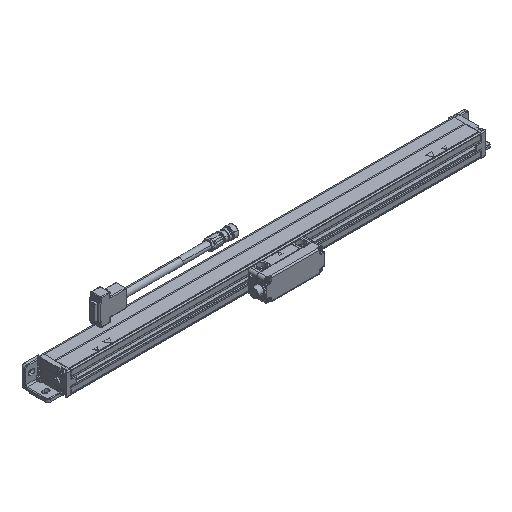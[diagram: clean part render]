
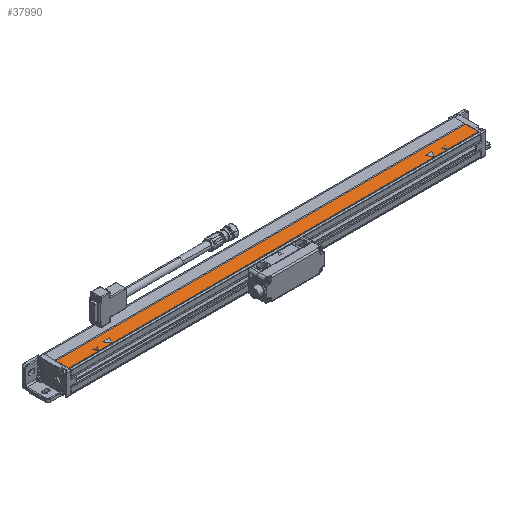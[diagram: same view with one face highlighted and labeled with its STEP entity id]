
A CAD part, isometric view. The second image highlights one B-rep face of the part: STEP entity #37990.
In plain terms, the highlighted planar face has unit normal (0, 0, 1).
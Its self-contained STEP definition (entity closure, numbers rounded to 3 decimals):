
#4180=CARTESIAN_POINT('',(2046.,62.01,34.29));
#4190=VERTEX_POINT('',#4180);
#4240=CARTESIAN_POINT('',(2144.,62.01,34.29));
#4250=DIRECTION('',(1.,0.,0.));
#4260=VECTOR('',#4250,1.);
#4270=LINE('',#4240,#4260);
#4280=CARTESIAN_POINT('',(2682.,62.01,34.29));
#4290=VERTEX_POINT('',#4280);
#4300=EDGE_CURVE('',#4190,#4290,#4270,.T.);
#35670=CARTESIAN_POINT('',(2682.,82.01,34.29));
#35680=VERTEX_POINT('',#35670);
#35730=CARTESIAN_POINT('',(2144.,82.01,34.29));
#35740=DIRECTION('',(1.,0.,0.));
#35750=VECTOR('',#35740,1.);
#35760=LINE('',#35730,#35750);
#35770=CARTESIAN_POINT('',(2046.,82.01,34.29));
#35780=VERTEX_POINT('',#35770);
#35790=EDGE_CURVE('',#35780,#35680,#35760,.T.);
#36260=CARTESIAN_POINT('',(2144.,62.01,34.29));
#36270=DIRECTION('',(-0.,0.,1.));
#36280=DIRECTION('',(0.,-1.,0.));
#36290=AXIS2_PLACEMENT_3D('',#36260,#36270,#36280);
#36300=PLANE('',#36290);
#36310=CARTESIAN_POINT('',(2097.465,90.75,34.29));
#36320=DIRECTION('',(0.5,-0.866,0.));
#36330=VECTOR('',#36320,1.);
#36340=LINE('',#36310,#36330);
#36350=CARTESIAN_POINT('',(2108.804,71.11,34.29));
#36360=VERTEX_POINT('',#36350);
#36370=CARTESIAN_POINT('',(2114.,62.11,34.29));
#36380=VERTEX_POINT('',#36370);
#36390=EDGE_CURVE('',#36360,#36380,#36340,.T.);
#36400=ORIENTED_EDGE('',*,*,#36390,.F.);
#36410=CARTESIAN_POINT('',(2130.535,90.75,34.29));
#36420=DIRECTION('',(0.5,0.866,0.));
#36430=VECTOR('',#36420,1.);
#36440=LINE('',#36410,#36430);
#36450=CARTESIAN_POINT('',(2119.196,71.11,34.29));
#36460=VERTEX_POINT('',#36450);
#36470=EDGE_CURVE('',#36380,#36460,#36440,.T.);
#36480=ORIENTED_EDGE('',*,*,#36470,.F.);
#36490=CARTESIAN_POINT('',(2652.,71.11,34.29));
#36500=DIRECTION('',(-1.,0.,0.));
#36510=VECTOR('',#36500,1.);
#36520=LINE('',#36490,#36510);
#36530=EDGE_CURVE('',#36460,#36360,#36520,.T.);
#36540=ORIENTED_EDGE('',*,*,#36530,.F.);
#36550=EDGE_LOOP('',(#36540,#36480,#36400));
#36560=FACE_BOUND('',#36550,.T.);
#36570=CARTESIAN_POINT('',(2650.535,90.75,34.29));
#36580=DIRECTION('',(0.5,0.866,0.));
#36590=VECTOR('',#36580,1.);
#36600=LINE('',#36570,#36590);
#36610=CARTESIAN_POINT('',(2634.,62.11,34.29));
#36620=VERTEX_POINT('',#36610);
#36630=CARTESIAN_POINT('',(2637.464,68.11,34.29));
#36640=VERTEX_POINT('',#36630);
#36650=EDGE_CURVE('',#36620,#36640,#36600,.T.);
#36660=ORIENTED_EDGE('',*,*,#36650,.F.);
#36670=CARTESIAN_POINT('',(2877.,68.11,34.29));
#36680=DIRECTION('',(-1.,0.,0.));
#36690=VECTOR('',#36680,1.);
#36700=LINE('',#36670,#36690);
#36710=CARTESIAN_POINT('',(2635.732,68.11,34.29));
#36720=VERTEX_POINT('',#36710);
#36730=EDGE_CURVE('',#36640,#36720,#36700,.T.);
#36740=ORIENTED_EDGE('',*,*,#36730,.F.);
#36750=CARTESIAN_POINT('',(2648.803,90.75,34.29));
#36760=DIRECTION('',(-0.5,-0.866,-0.));
#36770=VECTOR('',#36760,1.);
#36780=LINE('',#36750,#36770);
#36790=CARTESIAN_POINT('',(2634.,65.11,34.29));
#36800=VERTEX_POINT('',#36790);
#36810=EDGE_CURVE('',#36720,#36800,#36780,.T.);
#36820=ORIENTED_EDGE('',*,*,#36810,.F.);
#36830=CARTESIAN_POINT('',(2619.197,90.75,34.29));
#36840=DIRECTION('',(-0.5,0.866,0.));
#36850=VECTOR('',#36840,1.);
#36860=LINE('',#36830,#36850);
#36870=CARTESIAN_POINT('',(2632.268,68.11,34.29));
#36880=VERTEX_POINT('',#36870);
#36890=EDGE_CURVE('',#36800,#36880,#36860,.T.);
#36900=ORIENTED_EDGE('',*,*,#36890,.F.);
#36910=CARTESIAN_POINT('',(2877.,68.11,34.29));
#36920=DIRECTION('',(-1.,0.,0.));
#36930=VECTOR('',#36920,1.);
#36940=LINE('',#36910,#36930);
#36950=CARTESIAN_POINT('',(2630.536,68.11,34.29));
#36960=VERTEX_POINT('',#36950);
#36970=EDGE_CURVE('',#36880,#36960,#36940,.T.);
#36980=ORIENTED_EDGE('',*,*,#36970,.F.);
#36990=CARTESIAN_POINT('',(2617.465,90.75,34.29));
#37000=DIRECTION('',(0.5,-0.866,0.));
#37010=VECTOR('',#37000,1.);
#37020=LINE('',#36990,#37010);
#37030=EDGE_CURVE('',#36960,#36620,#37020,.T.);
#37040=ORIENTED_EDGE('',*,*,#37030,.F.);
#37050=EDGE_LOOP('',(#37040,#36980,#36900,#36820,#36740,#36660));
#37060=FACE_BOUND('',#37050,.T.);
#37070=CARTESIAN_POINT('',(2110.535,90.75,34.29));
#37080=DIRECTION('',(0.5,0.866,0.));
#37090=VECTOR('',#37080,1.);
#37100=LINE('',#37070,#37090);
#37110=CARTESIAN_POINT('',(2094.,62.11,34.29));
#37120=VERTEX_POINT('',#37110);
#37130=CARTESIAN_POINT('',(2097.464,68.11,34.29));
#37140=VERTEX_POINT('',#37130);
#37150=EDGE_CURVE('',#37120,#37140,#37100,.T.);
#37160=ORIENTED_EDGE('',*,*,#37150,.F.);
#37170=CARTESIAN_POINT('',(2697.,68.11,34.29));
#37180=DIRECTION('',(-1.,0.,-0.));
#37190=VECTOR('',#37180,1.);
#37200=LINE('',#37170,#37190);
#37210=CARTESIAN_POINT('',(2095.732,68.11,34.29));
#37220=VERTEX_POINT('',#37210);
#37230=EDGE_CURVE('',#37140,#37220,#37200,.T.);
#37240=ORIENTED_EDGE('',*,*,#37230,.F.);
#37250=CARTESIAN_POINT('',(2108.803,90.75,34.29));
#37260=DIRECTION('',(-0.5,-0.866,-0.));
#37270=VECTOR('',#37260,1.);
#37280=LINE('',#37250,#37270);
#37290=CARTESIAN_POINT('',(2094.,65.11,34.29));
#37300=VERTEX_POINT('',#37290);
#37310=EDGE_CURVE('',#37220,#37300,#37280,.T.);
#37320=ORIENTED_EDGE('',*,*,#37310,.F.);
#37330=CARTESIAN_POINT('',(2079.197,90.75,34.29));
#37340=DIRECTION('',(-0.5,0.866,0.));
#37350=VECTOR('',#37340,1.);
#37360=LINE('',#37330,#37350);
#37370=CARTESIAN_POINT('',(2092.268,68.11,34.29));
#37380=VERTEX_POINT('',#37370);
#37390=EDGE_CURVE('',#37300,#37380,#37360,.T.);
#37400=ORIENTED_EDGE('',*,*,#37390,.F.);
#37410=CARTESIAN_POINT('',(2697.,68.11,34.29));
#37420=DIRECTION('',(-1.,0.,-0.));
#37430=VECTOR('',#37420,1.);
#37440=LINE('',#37410,#37430);
#37450=CARTESIAN_POINT('',(2090.536,68.11,34.29));
#37460=VERTEX_POINT('',#37450);
#37470=EDGE_CURVE('',#37380,#37460,#37440,.T.);
#37480=ORIENTED_EDGE('',*,*,#37470,.F.);
#37490=CARTESIAN_POINT('',(2077.465,90.75,34.29));
#37500=DIRECTION('',(0.5,-0.866,0.));
#37510=VECTOR('',#37500,1.);
#37520=LINE('',#37490,#37510);
#37530=EDGE_CURVE('',#37460,#37120,#37520,.T.);
#37540=ORIENTED_EDGE('',*,*,#37530,.F.);
#37550=EDGE_LOOP('',(#37540,#37480,#37400,#37320,#37240,#37160));
#37560=FACE_BOUND('',#37550,.T.);
#37570=CARTESIAN_POINT('',(652.,71.11,34.29));
#37580=DIRECTION('',(-1.,0.,0.));
#37590=VECTOR('',#37580,1.);
#37600=LINE('',#37570,#37590);
#37610=CARTESIAN_POINT('',(2619.196,71.11,34.29));
#37620=VERTEX_POINT('',#37610);
#37630=CARTESIAN_POINT('',(2608.804,71.11,34.29));
#37640=VERTEX_POINT('',#37630);
#37650=EDGE_CURVE('',#37620,#37640,#37600,.T.);
#37660=ORIENTED_EDGE('',*,*,#37650,.F.);
#37670=CARTESIAN_POINT('',(2597.465,90.75,34.29));
#37680=DIRECTION('',(0.5,-0.866,0.));
#37690=VECTOR('',#37680,1.);
#37700=LINE('',#37670,#37690);
#37710=CARTESIAN_POINT('',(2614.,62.11,34.29));
#37720=VERTEX_POINT('',#37710);
#37730=EDGE_CURVE('',#37640,#37720,#37700,.T.);
#37740=ORIENTED_EDGE('',*,*,#37730,.F.);
#37750=CARTESIAN_POINT('',(2630.535,90.75,34.29));
#37760=DIRECTION('',(0.5,0.866,0.));
#37770=VECTOR('',#37760,1.);
#37780=LINE('',#37750,#37770);
#37790=EDGE_CURVE('',#37720,#37620,#37780,.T.);
#37800=ORIENTED_EDGE('',*,*,#37790,.F.);
#37810=EDGE_LOOP('',(#37800,#37740,#37660));
#37820=FACE_BOUND('',#37810,.T.);
#37830=ORIENTED_EDGE('',*,*,#4300,.T.);
#37840=CARTESIAN_POINT('',(2046.,90.75,34.29));
#37850=DIRECTION('',(0.,-1.,0.));
#37860=VECTOR('',#37850,1.);
#37870=LINE('',#37840,#37860);
#37880=EDGE_CURVE('',#35780,#4190,#37870,.T.);
#37890=ORIENTED_EDGE('',*,*,#37880,.T.);
#37900=ORIENTED_EDGE('',*,*,#35790,.F.);
#37910=CARTESIAN_POINT('',(2682.,90.75,34.29));
#37920=DIRECTION('',(0.,1.,0.));
#37930=VECTOR('',#37920,1.);
#37940=LINE('',#37910,#37930);
#37950=EDGE_CURVE('',#4290,#35680,#37940,.T.);
#37960=ORIENTED_EDGE('',*,*,#37950,.T.);
#37970=EDGE_LOOP('',(#37960,#37900,#37890,#37830));
#37980=FACE_OUTER_BOUND('',#37970,.T.);
#37990=ADVANCED_FACE('',(#36560,#37060,#37560,#37820,#37980),#36300,.T.)
;
